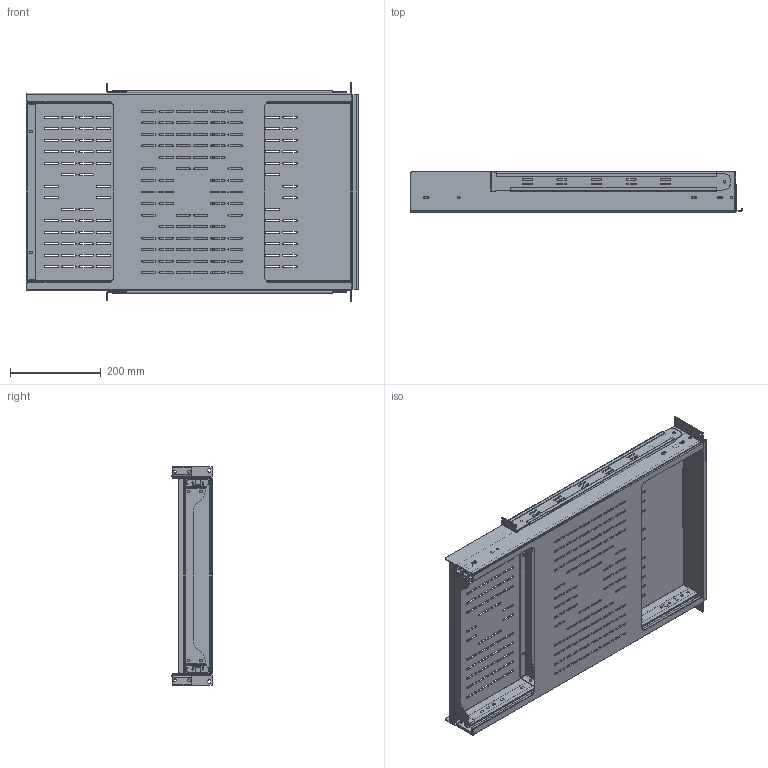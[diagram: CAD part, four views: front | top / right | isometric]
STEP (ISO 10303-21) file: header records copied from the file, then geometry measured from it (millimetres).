
FILE_DESCRIPTION((''),'2;1');
FILE_NAME('ASSHD28_ASM','2014-12-09T',('RRenderos'),('Middle Atlantic Products'),'PRO/ENGINEER BY PARAMETRIC TECHNOLOGY CORPORATION, 2013330','PRO/ENGINEER BY PARAMETRIC TECHNOLOGY CORPORATION, 2013330','');
FILE_SCHEMA(('CONFIG_CONTROL_DESIGN'));
Length unit declared in the file: inch
Products named in the file (13): BSSHDE; BRHG1L; BRHG1R; 500-00678_OUTER_SLIDE-2; PSSHDE_ASM; BRHE2; BSSHDT28; BSSHD28BL; BSSHD28BR; BSSHDTBK; 500-00678_INNER_SLIDE; PSSHDTB2_ASM; ASSHD28_ASM
Assembly tree (21 placements, depth 3):
  ASSHD28_ASM
    PSSHDE_ASM
      BSSHDE
      BRHG1L
      BRHG1R
      500-00678_OUTER_SLIDE-2  x2
    BRHE2  x2
    BRHG1L
    BRHG1R
    500-00678_OUTER_SLIDE-2  x2
    PSSHDTB2_ASM
      BSSHDT28
      BSSHD28BL
      BSSHD28BR
      BSSHDTBK  x3
      500-00678_INNER_SLIDE  x2
Bounding box: 731.9 x 88.29 x 482.6 mm (x, y, z)
Volume: 2053588.6 mm3; surface area: 2427681.4 mm2
Topology: 45 solids, 45 shells, 2376 faces, 6388 edges, 4102 vertices
Faces by surface type: plane 1328, cylinder 1036, bspline 12
Entity records: 48709 total; most frequent: CARTESIAN_POINT 8519, DIRECTION 8491, ORIENTED_EDGE 8088, EDGE_CURVE 4044, AXIS2_PLACEMENT_3D 2947, VERTEX_POINT 2624, VECTOR 2597, LINE 2597
